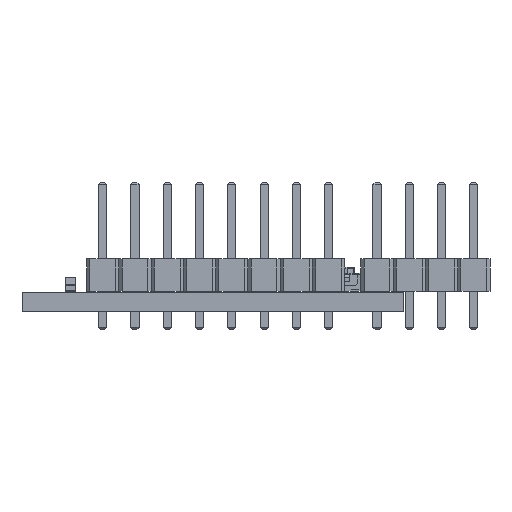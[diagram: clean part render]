
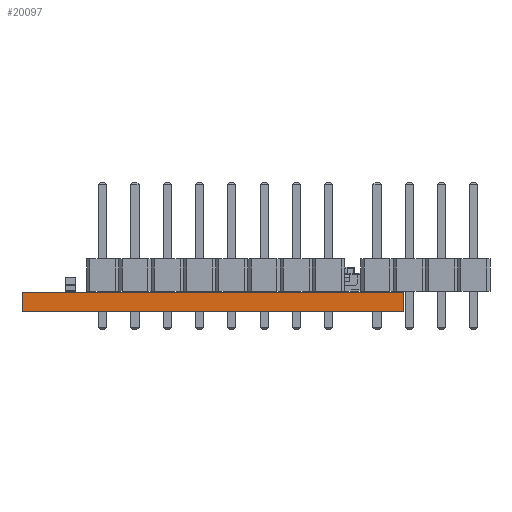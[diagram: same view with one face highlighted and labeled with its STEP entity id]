
A CAD part, left-side view. The second image highlights one B-rep face of the part: STEP entity #20097.
In plain terms, the highlighted planar face has unit normal (-1, 0, 0).
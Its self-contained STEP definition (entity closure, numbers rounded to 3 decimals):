
#20041 = VERTEX_POINT('',#20042);
#20042 = CARTESIAN_POINT('',(0.,-30.,1.55));
#20048 = EDGE_CURVE('',#20049,#20041,#20051,.T.);
#20049 = VERTEX_POINT('',#20050);
#20050 = CARTESIAN_POINT('',(0.,-30.,0.));
#20051 = LINE('',#20052,#20053);
#20052 = CARTESIAN_POINT('',(0.,-30.,0.));
#20053 = VECTOR('',#20054,1.);
#20054 = DIRECTION('',(0.,0.,1.));
#20097 = ADVANCED_FACE('',(#20098),#20123,.T.);
#20098 = FACE_BOUND('',#20099,.T.);
#20099 = EDGE_LOOP('',(#20100,#20101,#20109,#20117));
#20100 = ORIENTED_EDGE('',*,*,#20048,.T.);
#20101 = ORIENTED_EDGE('',*,*,#20102,.T.);
#20102 = EDGE_CURVE('',#20041,#20103,#20105,.T.);
#20103 = VERTEX_POINT('',#20104);
#20104 = CARTESIAN_POINT('',(0.,0.,1.55));
#20105 = LINE('',#20106,#20107);
#20106 = CARTESIAN_POINT('',(0.,-30.,1.55));
#20107 = VECTOR('',#20108,1.);
#20108 = DIRECTION('',(0.,1.,0.));
#20109 = ORIENTED_EDGE('',*,*,#20110,.F.);
#20110 = EDGE_CURVE('',#20111,#20103,#20113,.T.);
#20111 = VERTEX_POINT('',#20112);
#20112 = CARTESIAN_POINT('',(0.,-0.,0.));
#20113 = LINE('',#20114,#20115);
#20114 = CARTESIAN_POINT('',(0.,-0.,0.));
#20115 = VECTOR('',#20116,1.);
#20116 = DIRECTION('',(0.,0.,1.));
#20117 = ORIENTED_EDGE('',*,*,#20118,.F.);
#20118 = EDGE_CURVE('',#20049,#20111,#20119,.T.);
#20119 = LINE('',#20120,#20121);
#20120 = CARTESIAN_POINT('',(0.,-30.,0.));
#20121 = VECTOR('',#20122,1.);
#20122 = DIRECTION('',(0.,1.,0.));
#20123 = PLANE('',#20124);
#20124 = AXIS2_PLACEMENT_3D('',#20125,#20126,#20127);
#20125 = CARTESIAN_POINT('',(0.,-30.,0.));
#20126 = DIRECTION('',(-1.,0.,0.));
#20127 = DIRECTION('',(0.,1.,0.));
